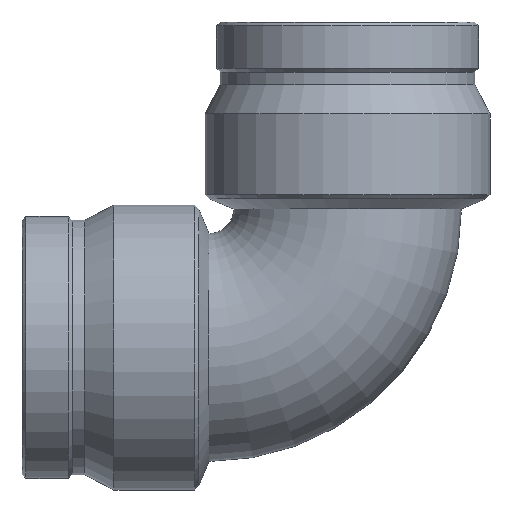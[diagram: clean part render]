
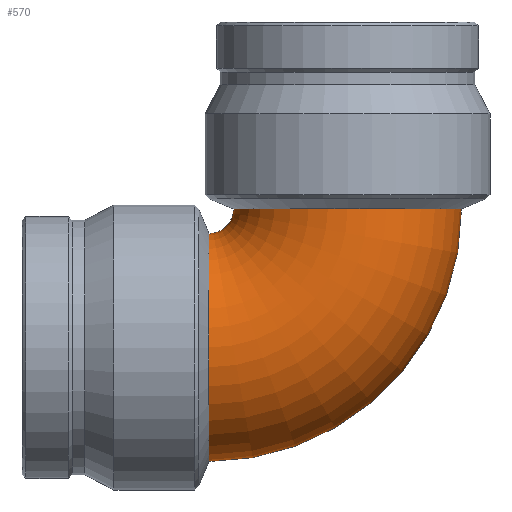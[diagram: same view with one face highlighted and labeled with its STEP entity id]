
A CAD part, front view. The second image highlights one B-rep face of the part: STEP entity #570.
In plain terms, the highlighted toroidal (fillet/blend) face has major radius 80.25 mm and minor radius 66 mm.
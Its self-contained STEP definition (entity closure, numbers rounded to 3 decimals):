
#130=FACE_OUTER_BOUND('',#172,.T.);
#172=EDGE_LOOP('',(#409,#410,#411,#412,#413,#414));
#228=CIRCLE('',#641,66.);
#229=CIRCLE('',#642,66.);
#230=CIRCLE('',#643,14.25);
#231=CIRCLE('',#644,66.);
#232=CIRCLE('',#645,66.);
#275=VERTEX_POINT('',#948);
#276=VERTEX_POINT('',#949);
#277=VERTEX_POINT('',#952);
#278=VERTEX_POINT('',#954);
#326=EDGE_CURVE('',#275,#276,#228,.T.);
#327=EDGE_CURVE('',#276,#275,#229,.T.);
#328=EDGE_CURVE('',#276,#277,#230,.T.);
#329=EDGE_CURVE('',#278,#277,#231,.T.);
#330=EDGE_CURVE('',#277,#278,#232,.T.);
#409=ORIENTED_EDGE('',*,*,#326,.F.);
#410=ORIENTED_EDGE('',*,*,#327,.F.);
#411=ORIENTED_EDGE('',*,*,#328,.T.);
#412=ORIENTED_EDGE('',*,*,#329,.F.);
#413=ORIENTED_EDGE('',*,*,#330,.F.);
#414=ORIENTED_EDGE('',*,*,#328,.F.);
#568=TOROIDAL_SURFACE('',#640,80.25,66.);
#570=ADVANCED_FACE('',(#130),#568,.T.);
#640=AXIS2_PLACEMENT_3D('',#947,#738,#739);
#641=AXIS2_PLACEMENT_3D('',#950,#740,#741);
#642=AXIS2_PLACEMENT_3D('',#951,#742,#743);
#643=AXIS2_PLACEMENT_3D('',#953,#744,#745);
#644=AXIS2_PLACEMENT_3D('',#955,#746,#747);
#645=AXIS2_PLACEMENT_3D('',#956,#748,#749);
#738=DIRECTION('center_axis',(0.,-1.,0.));
#739=DIRECTION('ref_axis',(0.,0.,-1.));
#740=DIRECTION('center_axis',(0.,0.,
1.));
#741=DIRECTION('ref_axis',(0.,-1.,0.));
#742=DIRECTION('center_axis',(0.,0.,
1.));
#743=DIRECTION('ref_axis',(0.,-1.,0.));
#744=DIRECTION('center_axis',(0.,1.,0.));
#745=DIRECTION('ref_axis',(0.,0.,-1.));
#746=DIRECTION('center_axis',(-1.,0.,0.));
#747=DIRECTION('ref_axis',(0.,-1.,0.));
#748=DIRECTION('center_axis',(-1.,0.,0.));
#749=DIRECTION('ref_axis',(0.,-1.,0.));
#947=CARTESIAN_POINT('Origin',(-80.25,0.,
80.25));
#948=CARTESIAN_POINT('',(0.,66.,80.25));
#949=CARTESIAN_POINT('',(-66.,0.,80.25));
#950=CARTESIAN_POINT('Origin',(0.,0.,
80.25));
#951=CARTESIAN_POINT('Origin',(0.,0.,
80.25));
#952=CARTESIAN_POINT('',(-80.25,0.,66.));
#953=CARTESIAN_POINT('Origin',(-80.25,0.,
80.25));
#954=CARTESIAN_POINT('',(-80.25,66.,0.));
#955=CARTESIAN_POINT('Origin',(-80.25,0.,
0.));
#956=CARTESIAN_POINT('Origin',(-80.25,0.,
0.));
